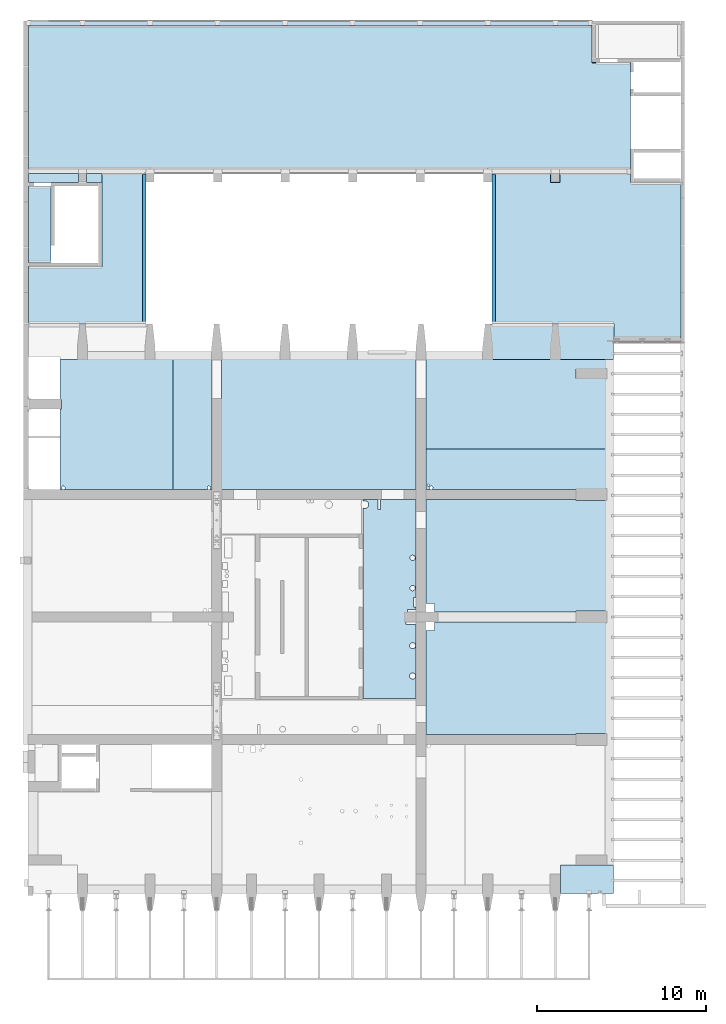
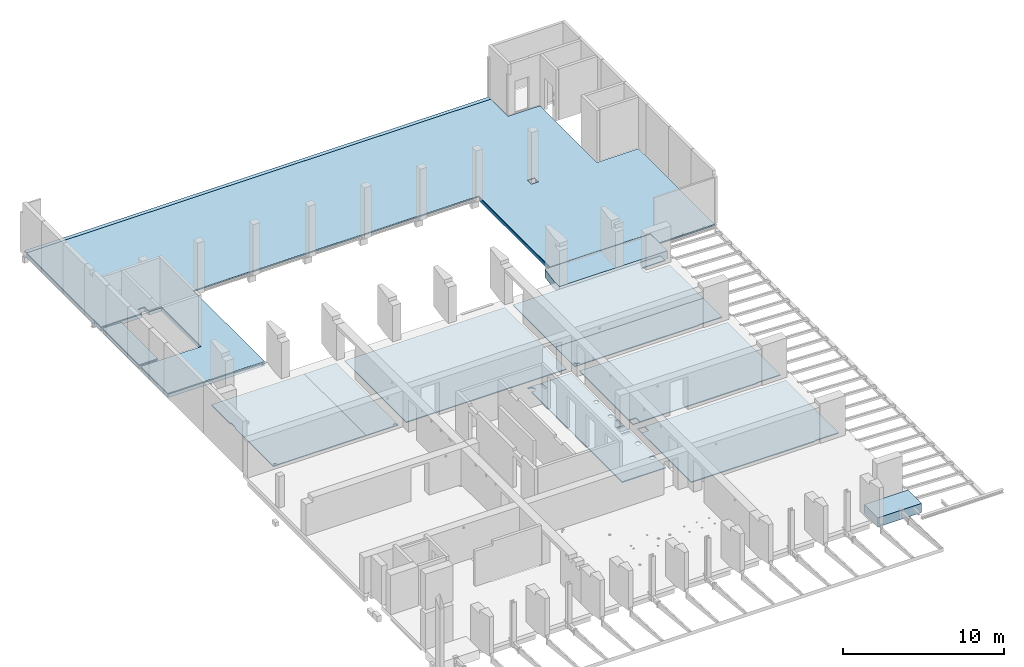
# One storey, part 19 of 27: 21 slabs, 48 openings.
"""IFC2X3 building model written with IfcOpenShell, lengths in millimetres."""

from ifc_helpers import new_model, entity, si_unit, converted_unit, derived_unit, direction, frame, frame_2d, origin, origin_2d_with_axis, place, context, subcontext, project, spatial, polyline, rectangle, circle, outline, extrude, material, layer, layer_set, layer_usage, element, save


model = new_model("IFC2X3")

# Units and contexts
model_context = context("Model", 3, precision=0.01, world=origin(), true_north=direction((6.12303176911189e-17, 1.0)))
body_context = subcontext(model_context, "Body", "Model", "MODEL_VIEW")
ifc_project = project(units=[si_unit("LENGTHUNIT", "METRE", prefix="MILLI"), si_unit("AREAUNIT", "SQUARE_METRE"), si_unit("VOLUMEUNIT", "CUBIC_METRE"), converted_unit("PLANEANGLEUNIT", "DEGREE", entity("IfcRatioMeasure", 0.0174532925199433), si_unit("PLANEANGLEUNIT", "RADIAN"), dimensions=[0, 0, 0, 0, 0, 0, 0]), si_unit("MASSUNIT", "GRAM", prefix="KILO"), derived_unit("MASSDENSITYUNIT", [(si_unit("MASSUNIT", "GRAM", prefix="KILO"), 1), (si_unit("LENGTHUNIT", "METRE"), -3)]), si_unit("TIMEUNIT", "SECOND"), si_unit("FREQUENCYUNIT", "HERTZ"), si_unit("THERMODYNAMICTEMPERATUREUNIT", "DEGREE_CELSIUS"), derived_unit("THERMALTRANSMITTANCEUNIT", [(si_unit("MASSUNIT", "GRAM", prefix="KILO"), 1), (si_unit("THERMODYNAMICTEMPERATUREUNIT", "KELVIN"), -1), (si_unit("TIMEUNIT", "SECOND"), -3)]), derived_unit("VOLUMETRICFLOWRATEUNIT", [(si_unit("LENGTHUNIT", "METRE"), 3), (si_unit("TIMEUNIT", "SECOND"), -1)]), si_unit("ELECTRICCURRENTUNIT", "AMPERE"), si_unit("ELECTRICVOLTAGEUNIT", "VOLT"), si_unit("POWERUNIT", "WATT"), si_unit("FORCEUNIT", "NEWTON", prefix="KILO"), si_unit("ILLUMINANCEUNIT", "LUX"), si_unit("LUMINOUSFLUXUNIT", "LUMEN"), si_unit("LUMINOUSINTENSITYUNIT", "CANDELA"), derived_unit("USERDEFINED", [(si_unit("MASSUNIT", "GRAM", prefix="KILO"), -1), (si_unit("LENGTHUNIT", "METRE"), -2), (si_unit("TIMEUNIT", "SECOND"), 3), (si_unit("LUMINOUSFLUXUNIT", "LUMEN"), 1)]), derived_unit("LINEARVELOCITYUNIT", [(si_unit("LENGTHUNIT", "METRE"), 1), (si_unit("TIMEUNIT", "SECOND"), -1)]), si_unit("PRESSUREUNIT", "PASCAL"), derived_unit("USERDEFINED", [(si_unit("LENGTHUNIT", "METRE"), -2), (si_unit("MASSUNIT", "GRAM", prefix="KILO"), 1), (si_unit("TIMEUNIT", "SECOND"), -2)])], contexts=[model_context])

# Site, building, storey
site_placement = place(None, origin())
site = spatial("IfcSite", under=ifc_project, at=site_placement, Name="Default", CompositionType="ELEMENT")
building_placement = place(site_placement, origin())
building = spatial("IfcBuilding", under=site, at=building_placement, Name="niet gebruiken", CompositionType="ELEMENT")
storey_placement = place(building_placement, frame((0.0, 0.0, 6000.0)))
storey = spatial("IfcBuildingStorey", under=building, at=storey_placement, Name="01 eerste verdieping", CompositionType="ELEMENT", Elevation=6000.0)

# Slabs
ifc_material_1 = material(Name="NLRS_f2_beton prefab")
ifc_layer_1 = layer(ifc_material_1, 255.0)
ifc_layer_set_1 = layer_set([ifc_layer_1], Name="Floor:NLRS_23.21_FL_kanaalplaat d=255_gen")
ifc_layer_usage_1 = layer_usage(ifc_layer_set_1, "AXIS3", "POSITIVE", 0.0)
slab_1_placement = place(storey_placement, frame((124550.0, 34027.0, -415.0)))
element("IfcSlab", 1, at=slab_1_placement, inside=storey, material=ifc_layer_usage_1, Name="Floor:NLRS_23.21_FL_kanaalplaat d=255_gen", ObjectType="Floor:NLRS_23.21_FL_kanaalplaat d=255_gen", PredefinedType="FLOOR", context=body_context, shape_type="SweptSolid", body=[
    extrude(outline(polyline([(12570.0, 479.0), (12570.0, -8376.0), (19320.0, -8376.0), (19320.0, -5026.0), (14970.0, -5026.0), (14970.0, 479.0), (12570.0, 479.0)])), frame((19320.0, 9234.0, 255.0), z_axis=(0.0, 0.0, -1.0), x_axis=(-1.0, 0.0, 0.0)), (0.0, 0.0, 1.0), 255.000000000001),
])
slab_2_placement = place(storey_placement, frame((124550.0, 34027.0, -415.0)))
element("IfcSlab", 2, at=slab_2_placement, inside=storey, material=ifc_layer_usage_1, Name="Floor:NLRS_23.21_FL_kanaalplaat d=255_gen:2", ObjectType="Floor:NLRS_23.21_FL_kanaalplaat d=255_gen", PredefinedType="FLOOR", context=body_context, shape_type="SweptSolid", body=[
    extrude(outline(polyline([(-16320.0, 779.0), (19320.0, 779.0), (19320.0, 9234.0), (-14050.0, 9234.0), (-14050.0, 7054.0), (-16320.0, 7054.0), (-16320.0, 779.0)])), frame((19320.0, 9234.0, 255.0), z_axis=(0.0, 0.0, -1.0), x_axis=(-1.0, 0.0, 0.0)), (0.0, 0.0, 1.0), 255.000000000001),
])
slab_3_placement = place(storey_placement, frame((124550.0, 34027.0, -415.0)))
element("IfcSlab", 3, at=slab_3_placement, inside=storey, material=ifc_layer_usage_1, Name="Floor:NLRS_23.21_FL_kanaalplaat d=255_gen:3", ObjectType="Floor:NLRS_23.21_FL_kanaalplaat d=255_gen", PredefinedType="FLOOR", context=body_context, shape_type="SweptSolid", body=[
    extrude(outline(polyline([(-8330.0, -8376.0), (-8330.0, 479.0), (-11610.0, 479.0), (-11610.0, -31.0), (-12150.0, -31.0), (-12150.0, 479.0), (-16320.0, 479.0), (-16320.0, -46.0), (-19320.0, -46.0), (-19320.0, -9234.0), (-15350.0, -9234.0), (-15350.0, -8376.0), (-8330.0, -8376.0)])), frame((19320.0, 9234.0, 255.0), z_axis=(0.0, 0.0, -1.0), x_axis=(-1.0, 0.0, 0.0)), (0.0, 0.0, 1.0), 255.000000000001),
])
slab_4_placement = place(storey_placement, frame((124550.0, 34027.0, -415.0)))
element("IfcSlab", 4, at=slab_4_placement, inside=storey, material=ifc_layer_usage_1, Name="Floor:NLRS_23.21_FL_kanaalplaat d=255_gen:4", ObjectType="Floor:NLRS_23.21_FL_kanaalplaat d=255_gen", PredefinedType="FLOOR", context=body_context, shape_type="SweptSolid", body=[
    extrude(rectangle(XDim=4490.00000000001, YDim=1349.99999999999, at=frame_2d((18645.0, -2511.0), x_axis=(0.0, -1.0))), frame((19320.0, 9234.0, 255.0), z_axis=(0.0, 0.0, -1.0), x_axis=(-1.0, 0.0, 0.0)), (0.0, 0.0, 1.0), 255.000000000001),
])

# Slab, opening
ifc_material_2 = material(Name="NLRS_f2_beton ihwg")
ifc_layer_2 = layer(ifc_material_2, 70.0)
ifc_layer_set_2 = layer_set([ifc_layer_2], Name="Floor:NLRS_23.21_FL_druklaag d=70_gen")
ifc_layer_usage_2 = layer_usage(ifc_layer_set_2, "AXIS3", "POSITIVE", 0.0)
slab_5_placement = place(storey_placement, frame((124550.0, 33752.0, -160.0)))
slab_5 = element("IfcSlab", 5, at=slab_5_placement, inside=storey, material=ifc_layer_usage_2, Name="Floor:NLRS_23.21_FL_druklaag d=70_gen", ObjectType="Floor:NLRS_23.21_FL_druklaag d=70_gen", PredefinedType="FLOOR", context=body_context, shape_type="SweptSolid", body=[
    extrude(outline(polyline([(12370.0, 641.50000000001), (12370.0, -8238.50000000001), (19320.0, -8238.49999999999), (19320.0, -4853.49999999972), (14970.0, -4853.49999999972), (14970.0, 106.499999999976), (15870.0, 106.499999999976), (15870.0, 626.500000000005), (16370.0, 626.500000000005), (16370.0, 106.499999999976), (19320.0, 106.499999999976), (19320.0, 9371.49999999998), (-14050.0, 9371.49999999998), (-14050.0, 7226.5), (-16320.0, 7226.49999999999), (-16320.0, 126.49999999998), (-19320.0, 126.499999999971), (-19320.0, -9371.49999999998), (-15350.0, -9371.49999999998), (-15350.0, -8238.50000000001), (-8130.0, -8238.50000000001), (-8130.0, 641.50000000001), (12370.0, 641.50000000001)])), frame((19320.0, 9371.49999999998, 70.0), z_axis=(0.0, 0.0, -1.0), x_axis=(-1.0, 0.0, 0.0)), (0.0, 0.0, 1.0), 70.0000000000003),
])
opening_1_placement = place(slab_5_placement, frame((31200.0, 9748.0, 70.0)))
element("IfcOpeningElement", 6, at=opening_1_placement, cuts=slab_5, Name="Floor:NLRS_23.21_FL_druklaag d=70_gen:2", ObjectType="Opening", context=body_context, shape_type="SweptSolid", body=[
    extrude(rectangle(XDim=499.999999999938, YDim=500.000000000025, at=origin_2d_with_axis()), frame((0.0, 0.0, 0.0), z_axis=(0.0, 0.0, -1.0), x_axis=(0.0, -1.0, 0.0)), (0.0, 0.0, 1.0), 70.0000000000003),
])

# Slabs
slab_6_placement = place(storey_placement, frame((124550.0, 33752.0, -160.0)))
element("IfcSlab", 7, at=slab_6_placement, inside=storey, material=ifc_layer_usage_2, Name="Floor:NLRS_23.21_FL_druklaag d=70_gen:2", ObjectType="Floor:NLRS_23.21_FL_druklaag d=70_gen", PredefinedType="FLOOR", context=body_context, shape_type="SweptSolid", body=[
    extrude(rectangle(XDim=4560.00000000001, YDim=1350.00000000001, at=frame_2d((18645.0, -2373.50000000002), x_axis=(0.0, -1.0))), frame((19320.0, 9371.49999999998, 70.0), z_axis=(0.0, 0.0, -1.0), x_axis=(-1.0, 0.0, 0.0)), (0.0, 0.0, 1.0), 70.0000000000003),
])
ifc_layer_3 = layer(ifc_material_2, 700.0)
ifc_layer_set_3 = layer_set([ifc_layer_3], Name="Floor:NLRS_23.21_FL_beton ihwg d=700_gen")
ifc_layer_usage_3 = layer_usage(ifc_layer_set_3, "AXIS3", "POSITIVE", 0.0)
slab_7_placement = place(storey_placement, origin())
element("IfcSlab", 8, at=slab_7_placement, inside=storey, material=ifc_layer_usage_3, Name="Floor:NLRS_23.21_FL_beton ihwg d=700_gen", ObjectType="Floor:NLRS_23.21_FL_beton ihwg d=700_gen", PredefinedType="FLOOR", context=body_context, shape_type="SweptSolid", body=[
    extrude(rectangle(XDim=1685.99999999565, YDim=3150.00000000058, at=frame_2d((0.0, -8.64019966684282e-12), x_axis=(1.0, 0.0))), frame((157625.0, 1957.0, -90.0), z_axis=(0.0, 0.0, -1.0), x_axis=(0.0, 1.0, 0.0)), (0.0, 0.0, 1.0), 700.0),
])
ifc_layer_4 = layer(ifc_material_2, 600.0)
ifc_layer_set_4 = layer_set([ifc_layer_4], Name="Floor:NLRS_23.21_FL_beton ihwg d=600_gen")
ifc_layer_usage_4 = layer_usage(ifc_layer_set_4, "AXIS3", "POSITIVE", 0.0)
slab_8_placement = place(storey_placement, origin())
element("IfcSlab", 9, at=slab_8_placement, inside=storey, material=ifc_layer_usage_4, Name="Floor:NLRS_23.21_FL_beton ihwg d=600_gen", ObjectType="Floor:NLRS_23.21_FL_beton ihwg d=600_gen", PredefinedType="FLOOR", context=body_context, shape_type="SweptSolid", body=[
    extrude(outline(polyline([(-990.0, -3130.0), (-240.0, -3130.0), (1110.0, -2980.0), (1110.0, 4620.0), (-990.0, 4620.0), (-990.0, -3130.0)])), frame((154580.0, 33740.0, -90.0), z_axis=(0.0, 0.0, -1.0), x_axis=(0.0, 1.0, 0.0)), (0.0, 0.0, 1.0), 600.0),
])

# Slab, opening
ifc_layer_5 = layer(ifc_material_1, 70.0)
ifc_layer_set_5 = layer_set([ifc_layer_5], Name="Floor:NLRS_23.21_FL_breedplaat d=70_gen")
ifc_layer_usage_5 = layer_usage(ifc_layer_set_5, "AXIS3", "POSITIVE", 0.0)
slab_9_placement = place(storey_placement, frame((133100.0, 25040.0, -360.0)))
slab_9 = element("IfcSlab", 10, at=slab_9_placement, inside=storey, material=ifc_layer_usage_5, Name="Floor:NLRS_23.21_FL_breedplaat d=70_gen", ObjectType="Floor:NLRS_23.21_FL_breedplaat d=70_gen", PredefinedType="FLOOR", context=body_context, shape_type="SweptSolid", body=[
    extrude(rectangle(XDim=7700.00000000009, YDim=2309.99999999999, at=frame_2d((11650.0, 0.0), x_axis=(0.0, 1.0))), frame((12805.0, 3850.0, 70.0), z_axis=(0.0, 0.0, -1.0), x_axis=(-1.0, 0.0, 0.0)), (0.0, 0.0, 1.0), 70.0000000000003),
])
placement_1 = place(slab_9_placement, origin())
element("IfcOpeningElement", 11, at=placement_1, cuts=slab_9, ObjectType="Opening", context=body_context, shape_type="SweptSolid", body=[
    extrude(circle(Radius=100.0, at=origin_2d_with_axis()), frame((2140.0, 110.0, 0.0), z_axis=(0.0, 0.0, 1.0), x_axis=(0.0, -1.0, 0.0)), (0.0, 0.0, 1.0), 270.0),
])

slab_10_placement = place(storey_placement, frame((133100.0, 25040.0, -360.0)))
slab_10 = element("IfcSlab", 12, at=slab_10_placement, inside=storey, material=ifc_layer_usage_5, Name="Floor:NLRS_23.21_FL_breedplaat d=70_gen:2", ObjectType="Floor:NLRS_23.21_FL_breedplaat d=70_gen", PredefinedType="FLOOR", context=body_context, shape_type="SweptSolid", body=[
    extrude(outline(polyline([(-2185.0, 3850.0), (-12805.0, 3850.0), (-12805.0, 3300.0), (-11085.0, 3300.0), (-11085.0, 2720.0), (-12805.0, 2720.0), (-12805.0, -1450.0), (-2185.0, -1450.0), (-2185.0, 3850.0)])), frame((12805.0, 3850.0, 70.0), z_axis=(0.0, 0.0, -1.0), x_axis=(-1.0, 0.0, 0.0)), (0.0, 0.0, 1.0), 70.0000000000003),
])
element("IfcOpeningElement", 13, at=placement_1, cuts=slab_10, ObjectType="Opening", context=body_context, shape_type="SweptSolid", body=[
    extrude(circle(Radius=100.0, at=origin_2d_with_axis()), frame((2140.0, 110.0, 0.0), z_axis=(0.0, 0.0, 1.0), x_axis=(0.0, -1.0, 0.0)), (0.0, 0.0, 1.0), 270.0),
])

slab_11_placement = place(storey_placement, frame((133100.0, 25040.0, -360.0)))
slab_11 = element("IfcSlab", 14, at=slab_11_placement, inside=storey, material=ifc_layer_usage_5, Name="Floor:NLRS_23.21_FL_breedplaat d=70_gen:3", ObjectType="Floor:NLRS_23.21_FL_breedplaat d=70_gen", PredefinedType="FLOOR", context=body_context, shape_type="SweptSolid", body=[
    extrude(rectangle(XDim=11520.0000000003, YDim=7700.00000000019, at=frame_2d((4155.0, 0.0), x_axis=(1.0, 0.0))), frame((12805.0, 3850.0, 70.0), z_axis=(0.0, 0.0, -1.0), x_axis=(-1.0, 0.0, 0.0)), (0.0, 0.0, 1.0), 70.0000000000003),
])
element("IfcOpeningElement", 15, at=placement_1, cuts=slab_11, ObjectType="Opening", context=body_context, shape_type="SweptSolid", body=[
    extrude(circle(Radius=100.0, at=origin_2d_with_axis()), frame((2140.0, 110.0, 0.0), z_axis=(0.0, 0.0, 1.0), x_axis=(0.0, -1.0, 0.0)), (0.0, 0.0, 1.0), 270.0),
])

# Slab, openings
ifc_layer_usage_6 = layer_usage(ifc_layer_set_5, "AXIS3", "POSITIVE", 0.0)
slab_12_placement = place(storey_placement, frame((148090.0, 1604.0, -360.0)))
slab_12 = element("IfcSlab", 16, at=slab_12_placement, inside=storey, material=ifc_layer_usage_6, Name="Floor:NLRS_23.21_FL_breedplaat d=70_gen", ObjectType="Floor:NLRS_23.21_FL_breedplaat d=70_gen", PredefinedType="FLOOR", context=body_context, shape_type="SweptSolid", body=[
    extrude(outline(polyline([(5310.0, 12918.0), (-5310.0, 12918.0), (-5310.0, 10568.0), (-3590.0, 10568.0), (-3590.0, 10518.0), (5310.0, 10518.0), (5310.0, 12918.0)])), frame((5310.0, 12918.0, 70.0), z_axis=(0.0, 0.0, -1.0), x_axis=(-1.0, 0.0, 0.0)), (0.0, 0.0, 1.0), 70.0000000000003),
])
placement_2 = place(slab_12_placement, origin())
element("IfcOpeningElement", 17, at=placement_2, cuts=slab_12, ObjectType="Opening", context=body_context, shape_type="SweptSolid", body=[
    extrude(circle(Radius=62.5, at=origin_2d_with_axis()), frame((160.0, 23696.0, 0.0), z_axis=(0.0, 0.0, 1.0), x_axis=(0.0, -1.0, 0.0)), (0.0, 0.0, 1.0), 270.0),
])
placement_3 = place(slab_12_placement, origin())
element("IfcOpeningElement", 18, at=placement_3, cuts=slab_12, ObjectType="Opening", context=body_context, shape_type="SweptSolid", body=[
    extrude(rectangle(XDim=500.000000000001, YDim=500.000000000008, at=origin_2d_with_axis()), frame((260.0, 16446.0, 0.0), z_axis=(0.0, 0.0, 1.0), x_axis=(0.0, 1.0, 0.0)), (0.0, 0.0, 1.0), 270.0),
])
placement_4 = place(slab_12_placement, origin())
element("IfcOpeningElement", 19, at=placement_4, cuts=slab_12, ObjectType="Opening", context=body_context, shape_type="SweptSolid", body=[
    extrude(rectangle(XDim=500.000000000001, YDim=500.000000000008, at=origin_2d_with_axis()), frame((260.0, 15346.0, 0.0), z_axis=(0.0, 0.0, 1.0), x_axis=(0.0, 1.0, 0.0)), (0.0, 0.0, 1.0), 270.0),
])
placement_5 = place(slab_12_placement, origin())
element("IfcOpeningElement", 20, at=placement_5, cuts=slab_12, ObjectType="Opening", context=body_context, shape_type="SweptSolid", body=[
    extrude(circle(Radius=100.0, at=origin_2d_with_axis()), frame((310.0, 23546.0, 0.0), z_axis=(0.0, 0.0, 1.0), x_axis=(0.0, -1.0, 0.0)), (0.0, 0.0, 1.0), 270.0),
])

slab_13_placement = place(storey_placement, frame((148090.0, 1604.0, -360.0)))
slab_13 = element("IfcSlab", 21, at=slab_13_placement, inside=storey, material=ifc_layer_usage_6, Name="Floor:NLRS_23.21_FL_breedplaat d=70_gen:3", ObjectType="Floor:NLRS_23.21_FL_breedplaat d=70_gen", PredefinedType="FLOOR", context=body_context, shape_type="SweptSolid", body=[
    extrude(outline(polyline([(-3590.0, -3982.0), (5310.0, -3982.0), (5310.0, 2688.0), (-3590.0, 2688.0), (-3590.0, 2638.0), (-5310.0, 2638.0), (-5310.0, -3932.0), (-3590.0, -3932.0), (-3590.0, -3982.0)])), frame((5310.0, 12918.0, 70.0), z_axis=(0.0, 0.0, -1.0), x_axis=(-1.0, 0.0, 0.0)), (0.0, 0.0, 1.0), 70.0000000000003),
])
element("IfcOpeningElement", 22, at=placement_2, cuts=slab_13, ObjectType="Opening", context=body_context, shape_type="SweptSolid", body=[
    extrude(circle(Radius=62.5, at=origin_2d_with_axis()), frame((160.0, 23696.0, 0.0), z_axis=(0.0, 0.0, 1.0), x_axis=(0.0, -1.0, 0.0)), (0.0, 0.0, 1.0), 270.0),
])
element("IfcOpeningElement", 23, at=placement_3, cuts=slab_13, ObjectType="Opening", context=body_context, shape_type="SweptSolid", body=[
    extrude(rectangle(XDim=500.000000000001, YDim=500.000000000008, at=origin_2d_with_axis()), frame((260.0, 16446.0, 0.0), z_axis=(0.0, 0.0, 1.0), x_axis=(0.0, 1.0, 0.0)), (0.0, 0.0, 1.0), 270.0),
])
element("IfcOpeningElement", 24, at=placement_4, cuts=slab_13, ObjectType="Opening", context=body_context, shape_type="SweptSolid", body=[
    extrude(rectangle(XDim=500.000000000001, YDim=500.000000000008, at=origin_2d_with_axis()), frame((260.0, 15346.0, 0.0), z_axis=(0.0, 0.0, 1.0), x_axis=(0.0, 1.0, 0.0)), (0.0, 0.0, 1.0), 270.0),
])
element("IfcOpeningElement", 25, at=placement_5, cuts=slab_13, ObjectType="Opening", context=body_context, shape_type="SweptSolid", body=[
    extrude(circle(Radius=100.0, at=origin_2d_with_axis()), frame((310.0, 23546.0, 0.0), z_axis=(0.0, 0.0, 1.0), x_axis=(0.0, -1.0, 0.0)), (0.0, 0.0, 1.0), 270.0),
])

slab_14_placement = place(storey_placement, frame((148090.0, 1604.0, -360.0)))
slab_14 = element("IfcSlab", 26, at=slab_14_placement, inside=storey, material=ifc_layer_usage_6, Name="Floor:NLRS_23.21_FL_breedplaat d=70_gen:4", ObjectType="Floor:NLRS_23.21_FL_breedplaat d=70_gen", PredefinedType="FLOOR", context=body_context, shape_type="SweptSolid", body=[
    extrude(outline(polyline([(-3590.0, 3268.0), (5310.0, 3268.0), (5310.0, 9938.0), (-3590.0, 9938.0), (-3590.0, 9888.0), (-5310.0, 9888.0), (-5310.0, 3318.0), (-3590.0, 3318.0), (-3590.0, 3268.0)])), frame((5310.0, 12918.0, 70.0), z_axis=(0.0, 0.0, -1.0), x_axis=(-1.0, 0.0, 0.0)), (0.0, 0.0, 1.0), 70.0000000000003),
])
element("IfcOpeningElement", 27, at=placement_2, cuts=slab_14, ObjectType="Opening", context=body_context, shape_type="SweptSolid", body=[
    extrude(circle(Radius=62.5, at=origin_2d_with_axis()), frame((160.0, 23696.0, 0.0), z_axis=(0.0, 0.0, 1.0), x_axis=(0.0, -1.0, 0.0)), (0.0, 0.0, 1.0), 270.0),
])
element("IfcOpeningElement", 28, at=placement_3, cuts=slab_14, ObjectType="Opening", context=body_context, shape_type="SweptSolid", body=[
    extrude(rectangle(XDim=500.000000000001, YDim=500.000000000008, at=origin_2d_with_axis()), frame((260.0, 16446.0, 0.0), z_axis=(0.0, 0.0, 1.0), x_axis=(0.0, 1.0, 0.0)), (0.0, 0.0, 1.0), 270.0),
])
element("IfcOpeningElement", 29, at=placement_4, cuts=slab_14, ObjectType="Opening", context=body_context, shape_type="SweptSolid", body=[
    extrude(rectangle(XDim=500.000000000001, YDim=500.000000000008, at=origin_2d_with_axis()), frame((260.0, 15346.0, 0.0), z_axis=(0.0, 0.0, 1.0), x_axis=(0.0, 1.0, 0.0)), (0.0, 0.0, 1.0), 270.0),
])
element("IfcOpeningElement", 30, at=placement_5, cuts=slab_14, ObjectType="Opening", context=body_context, shape_type="SweptSolid", body=[
    extrude(circle(Radius=100.0, at=origin_2d_with_axis()), frame((310.0, 23546.0, 0.0), z_axis=(0.0, 0.0, 1.0), x_axis=(0.0, -1.0, 0.0)), (0.0, 0.0, 1.0), 270.0),
])

ifc_layer_usage_7 = layer_usage(ifc_layer_set_5, "AXIS3", "POSITIVE", 0.0)
slab_15_placement = place(storey_placement, frame((124740.0, 12266.0, -360.0)))
slab_15 = element("IfcSlab", 31, at=slab_15_placement, inside=storey, material=ifc_layer_usage_7, Name="Floor:NLRS_23.21_FL_breedplaat d=70_gen", ObjectType="Floor:NLRS_23.21_FL_breedplaat d=70_gen", PredefinedType="FLOOR", context=body_context, shape_type="SweptSolid", body=[
    extrude(outline(polyline([(3645.0, 7887.0), (3645.0, 10237.0), (-3025.0, 10237.0), (-3025.0, 2537.0), (3645.0, 2537.0), (3645.0, 7307.0), (3565.0, 7307.0), (3565.0, 7887.0), (3645.0, 7887.0)])), frame((5335.0, 10237.0, 70.0), z_axis=(0.0, 0.0, -1.0), x_axis=(-1.0, 0.0, 0.0)), (0.0, 0.0, 1.0), 70.0000000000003),
])
opening_17_placement = place(slab_15_placement, origin())
element("IfcOpeningElement", 32, at=opening_17_placement, cuts=slab_15, ObjectType="Opening", context=body_context, shape_type="SweptSolid", body=[
    extrude(circle(Radius=100.0, at=origin_2d_with_axis()), frame((10560.0, 4834.0, 0.0), z_axis=(0.0, 0.0, 1.0), x_axis=(0.0, -1.0, 0.0)), (0.0, 0.0, 1.0), 270.0),
])
opening_18_placement = place(slab_15_placement, origin())
element("IfcOpeningElement", 33, at=opening_18_placement, cuts=slab_15, ObjectType="Opening", context=body_context, shape_type="SweptSolid", body=[
    extrude(circle(Radius=100.0, at=origin_2d_with_axis()), frame((10560.0, 5634.0, 0.0), z_axis=(0.0, 0.0, 1.0), x_axis=(0.0, -1.0, 0.0)), (0.0, 0.0, 1.0), 270.0),
])
opening_19_placement = place(slab_15_placement, origin())
element("IfcOpeningElement", 34, at=opening_19_placement, cuts=slab_15, ObjectType="Opening", context=body_context, shape_type="SweptSolid", body=[
    extrude(circle(Radius=100.0, at=origin_2d_with_axis()), frame((10260.0, 5634.0, 0.0), z_axis=(0.0, 0.0, 1.0), x_axis=(0.0, -1.0, 0.0)), (0.0, 0.0, 1.0), 270.0),
])
opening_20_placement = place(slab_15_placement, origin())
element("IfcOpeningElement", 35, at=opening_20_placement, cuts=slab_15, ObjectType="Opening", context=body_context, shape_type="SweptSolid", body=[
    extrude(circle(Radius=100.0, at=origin_2d_with_axis()), frame((1880.0, 12884.0, 0.0), z_axis=(0.0, 0.0, 1.0), x_axis=(-1.0, 0.0, 0.0)), (0.0, 0.0, 1.0), 270.0),
])

ifc_layer_usage_8 = layer_usage(ifc_layer_set_5, "AXIS3", "POSITIVE", 0.0)
slab_16_placement = place(storey_placement, frame((135990.0, 10540.0, -330.0)))
slab_16 = element("IfcSlab", 36, at=slab_16_placement, inside=storey, material=ifc_layer_usage_8, Name="Floor:NLRS_23.21_FL_breedplaat d=70_gen:3", ObjectType="Floor:NLRS_23.21_FL_breedplaat d=70_gen", PredefinedType="FLOOR", context=body_context, shape_type="SweptSolid", body=[
    extrude(rectangle(XDim=11800.0, YDim=3160.00000000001, at=frame_2d((-4180.0, 1060.0), x_axis=(0.0, -1.0))), frame((5760.0, 6960.0, 70.0), z_axis=(0.0, 0.0, -1.0), x_axis=(-1.0, 0.0, 0.0)), (0.0, 0.0, 1.0), 70.0000000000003),
])
placement_6 = place(storey_placement, frame((135990.0, 10540.0, -330.0)))
opening_21_placement = place(placement_6, origin())
element("IfcOpeningElement", 37, at=opening_21_placement, cuts=slab_16, ObjectType="Opening", context=body_context, shape_type="SweptSolid", body=[
    extrude(circle(Radius=225.0, at=origin_2d_with_axis()), frame((8485.0, 13610.0, 0.0), z_axis=(0.0, 0.0, 1.0), x_axis=(-1.0, 0.0, 0.0)), (0.0, 0.0, 1.0), 240.0),
])
opening_22_placement = place(placement_6, origin())
element("IfcOpeningElement", 38, at=opening_22_placement, cuts=slab_16, ObjectType="Opening", context=body_context, shape_type="SweptSolid", body=[
    extrude(circle(Radius=100.0, at=origin_2d_with_axis()), frame((5135.0, 13810.0, 0.0), z_axis=(0.0, 0.0, 1.0), x_axis=(-1.0, 0.0, 0.0)), (0.0, 0.0, 1.0), 240.0),
])
opening_23_placement = place(placement_6, origin())
element("IfcOpeningElement", 39, at=opening_23_placement, cuts=slab_16, ObjectType="Opening", context=body_context, shape_type="SweptSolid", body=[
    extrude(circle(Radius=100.0, at=origin_2d_with_axis()), frame((5345.0, 13810.0, 0.0), z_axis=(0.0, 0.0, 1.0), x_axis=(-1.0, 0.0, 0.0)), (0.0, 0.0, 1.0), 240.0),
])
opening_24_placement = place(placement_6, origin())
element("IfcOpeningElement", 40, at=opening_24_placement, cuts=slab_16, ObjectType="Opening", context=body_context, shape_type="SweptSolid", body=[
    extrude(circle(Radius=100.0, at=origin_2d_with_axis()), frame((310.0, 4365.0, 0.0), z_axis=(0.0, 0.0, 1.0), x_axis=(0.0, 1.0, 0.0)), (0.0, 0.0, 1.0), 240.0),
])
opening_25_placement = place(placement_6, origin())
element("IfcOpeningElement", 41, at=opening_25_placement, cuts=slab_16, ObjectType="Opening", context=body_context, shape_type="SweptSolid", body=[
    extrude(rectangle(XDim=150.000000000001, YDim=590.000000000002, at=origin_2d_with_axis()), frame((2210.0, 305.0, 0.0)), (0.0, 0.0, 1.0), 240.0),
])
opening_26_placement = place(placement_6, origin())
element("IfcOpeningElement", 42, at=opening_26_placement, cuts=slab_16, ObjectType="Opening", context=body_context, shape_type="SweptSolid", body=[
    extrude(circle(Radius=177.5, at=origin_2d_with_axis()), frame((11310.0, 3461.0, 0.0), z_axis=(0.0, 0.0, 1.0), x_axis=(0.0, 1.0, 0.0)), (0.0, 0.0, 1.0), 240.0),
])
opening_27_placement = place(placement_6, origin())
element("IfcOpeningElement", 43, at=opening_27_placement, cuts=slab_16, ObjectType="Opening", context=body_context, shape_type="SweptSolid", body=[
    extrude(rectangle(XDim=1000.0, YDim=400.000000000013, at=origin_2d_with_axis()), frame((210.0, 6160.0, 0.0), z_axis=(0.0, 0.0, 1.0), x_axis=(0.0, -1.0, 0.0)), (0.0, 0.0, 1.0), 240.0),
])
opening_28_placement = place(placement_6, origin())
element("IfcOpeningElement", 44, at=opening_28_placement, cuts=slab_16, ObjectType="Opening", context=body_context, shape_type="SweptSolid", body=[
    extrude(rectangle(XDim=400.000000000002, YDim=300.000000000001, at=origin_2d_with_axis()), frame((210.0, 4730.0, 0.0), z_axis=(0.0, 0.0, 1.0), x_axis=(0.0, -1.0, 0.0)), (0.0, 0.0, 1.0), 240.0),
])
opening_29_placement = place(placement_6, origin())
element("IfcOpeningElement", 45, at=opening_29_placement, cuts=slab_16, ObjectType="Opening", context=body_context, shape_type="SweptSolid", body=[
    extrude(rectangle(XDim=1190.0, YDim=400.000000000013, at=origin_2d_with_axis()), frame((210.0, 7855.0, 0.0), z_axis=(0.0, 0.0, 1.0), x_axis=(0.0, -1.0, 0.0)), (0.0, 0.0, 1.0), 240.0),
])
opening_30_placement = place(placement_6, origin())
element("IfcOpeningElement", 46, at=opening_30_placement, cuts=slab_16, ObjectType="Opening", context=body_context, shape_type="SweptSolid", body=[
    extrude(rectangle(XDim=400.000000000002, YDim=300.000000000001, at=origin_2d_with_axis()), frame((210.0, 8910.0, 0.0), z_axis=(0.0, 0.0, 1.0), x_axis=(0.0, -1.0, 0.0)), (0.0, 0.0, 1.0), 240.0),
])
opening_31_placement = place(placement_6, origin())
element("IfcOpeningElement", 47, at=opening_31_placement, cuts=slab_16, ObjectType="Opening", context=body_context, shape_type="SweptSolid", body=[
    extrude(rectangle(XDim=1200.0, YDim=450.000000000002, at=origin_2d_with_axis()), frame((385.0, 11040.0, 0.0), z_axis=(0.0, 0.0, 1.0), x_axis=(0.0, -1.0, 0.0)), (0.0, 0.0, 1.0), 240.0),
])
opening_32_placement = place(placement_6, origin())
element("IfcOpeningElement", 48, at=opening_32_placement, cuts=slab_16, ObjectType="Opening", context=body_context, shape_type="SweptSolid", body=[
    extrude(rectangle(XDim=600.000000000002, YDim=155.000000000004, at=origin_2d_with_axis()), frame((11210.0, 6582.49999999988, 0.0)), (0.0, 0.0, 1.0), 240.0),
])
opening_33_placement = place(placement_6, origin())
element("IfcOpeningElement", 49, at=opening_33_placement, cuts=slab_16, ObjectType="Opening", context=body_context, shape_type="SweptSolid", body=[
    extrude(rectangle(XDim=489.999999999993, YDim=150.000000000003, at=origin_2d_with_axis()), frame((11265.0, 7335.0, 0.0)), (0.0, 0.0, 1.0), 240.0),
])
opening_34_placement = place(placement_6, origin())
element("IfcOpeningElement", 50, at=opening_34_placement, cuts=slab_16, ObjectType="Opening", context=body_context, shape_type="SweptSolid", body=[
    extrude(rectangle(XDim=150.000000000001, YDim=590.000000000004, at=origin_2d_with_axis()), frame((9325.0, 13615.0, 0.0)), (0.0, 0.0, 1.0), 240.0),
])
opening_35_placement = place(placement_6, origin())
element("IfcOpeningElement", 51, at=opening_35_placement, cuts=slab_16, ObjectType="Opening", context=body_context, shape_type="SweptSolid", body=[
    extrude(rectangle(XDim=150.000000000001, YDim=590.000000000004, at=origin_2d_with_axis()), frame((2205.0, 13615.0, 0.0)), (0.0, 0.0, 1.0), 240.0),
])
opening_36_placement = place(placement_6, origin())
element("IfcOpeningElement", 52, at=opening_36_placement, cuts=slab_16, ObjectType="Opening", context=body_context, shape_type="SweptSolid", body=[
    extrude(circle(Radius=157.5, at=origin_2d_with_axis()), frame((11310.0, 10460.0, 0.0), z_axis=(0.0, 0.0, 1.0), x_axis=(0.0, 1.0, 0.0)), (0.0, 0.0, 1.0), 240.0),
])
opening_37_placement = place(placement_6, origin())
element("IfcOpeningElement", 53, at=opening_37_placement, cuts=slab_16, ObjectType="Opening", context=body_context, shape_type="SweptSolid", body=[
    extrude(circle(Radius=157.5, at=origin_2d_with_axis()), frame((11310.0, 8665.0, 0.0), z_axis=(0.0, 0.0, 1.0), x_axis=(0.0, 1.0, 0.0)), (0.0, 0.0, 1.0), 240.0),
])
opening_38_placement = place(placement_6, origin())
element("IfcOpeningElement", 54, at=opening_38_placement, cuts=slab_16, ObjectType="Opening", context=body_context, shape_type="SweptSolid", body=[
    extrude(rectangle(XDim=550.000000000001, YDim=140.000000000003, at=origin_2d_with_axis()), frame((11440.0, 7830.0, 0.0), z_axis=(0.0, 0.0, 1.0), x_axis=(0.0, -1.0, 0.0)), (0.0, 0.0, 1.0), 240.0),
])
opening_39_placement = place(placement_6, origin())
element("IfcOpeningElement", 55, at=opening_39_placement, cuts=slab_16, ObjectType="Opening", context=body_context, shape_type="SweptSolid", body=[
    extrude(circle(Radius=177.5, at=origin_2d_with_axis()), frame((11310.0, 5255.0, 0.0), z_axis=(0.0, 0.0, 1.0), x_axis=(0.0, 1.0, 0.0)), (0.0, 0.0, 1.0), 240.0),
])
opening_40_placement = place(placement_6, origin())
element("IfcOpeningElement", 56, at=opening_40_placement, cuts=slab_16, ObjectType="Opening", context=body_context, shape_type="SweptSolid", body=[
    extrude(rectangle(XDim=150.000000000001, YDim=590.000000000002, at=origin_2d_with_axis()), frame((9335.0, 305.0, 0.0)), (0.0, 0.0, 1.0), 240.0),
])
opening_41_placement = place(placement_6, origin())
element("IfcOpeningElement", 57, at=opening_41_placement, cuts=slab_16, ObjectType="Opening", context=body_context, shape_type="SweptSolid", body=[
    extrude(circle(Radius=177.5, at=origin_2d_with_axis()), frame((7910.0, 310.0, 0.0), z_axis=(0.0, 0.0, 1.0), x_axis=(-1.0, 0.0, 0.0)), (0.0, 0.0, 1.0), 240.0),
])
opening_42_placement = place(placement_6, origin())
element("IfcOpeningElement", 58, at=opening_42_placement, cuts=slab_16, ObjectType="Opening", context=body_context, shape_type="SweptSolid", body=[
    extrude(circle(Radius=177.5, at=origin_2d_with_axis()), frame((3610.0, 310.0, 0.0), z_axis=(0.0, 0.0, 1.0), x_axis=(-1.0, 0.0, 0.0)), (0.0, 0.0, 1.0), 240.0),
])
opening_43_placement = place(placement_6, origin())
element("IfcOpeningElement", 59, at=opening_43_placement, cuts=slab_16, ObjectType="Opening", context=body_context, shape_type="SweptSolid", body=[
    extrude(rectangle(XDim=1129.0, YDim=450.000000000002, at=origin_2d_with_axis()), frame((385.0, 2884.49999999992, 0.0), z_axis=(0.0, 0.0, 1.0), x_axis=(0.0, -1.0, 0.0)), (0.0, 0.0, 1.0), 240.0),
])
opening_44_placement = place(placement_6, origin())
element("IfcOpeningElement", 60, at=opening_44_placement, cuts=slab_16, ObjectType="Opening", context=body_context, shape_type="SweptSolid", body=[
    extrude(rectangle(XDim=400.000000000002, YDim=300.000000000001, at=origin_2d_with_axis()), frame((210.0, 3943.0, 0.0), z_axis=(0.0, 0.0, 1.0), x_axis=(0.0, -1.0, 0.0)), (0.0, 0.0, 1.0), 240.0),
])
opening_45_placement = place(placement_6, origin())
element("IfcOpeningElement", 61, at=opening_45_placement, cuts=slab_16, ObjectType="Opening", context=body_context, shape_type="SweptSolid", body=[
    extrude(circle(Radius=225.0, at=origin_2d_with_axis()), frame((6345.0, 13610.0, 0.0), z_axis=(0.0, 0.0, 1.0), x_axis=(-1.0, 0.0, 0.0)), (0.0, 0.0, 1.0), 240.0),
])
opening_46_placement = place(placement_6, origin())
element("IfcOpeningElement", 62, at=opening_46_placement, cuts=slab_16, ObjectType="Opening", context=body_context, shape_type="SweptSolid", body=[
    extrude(circle(Radius=100.0, at=origin_2d_with_axis()), frame((310.0, 9380.0, 0.0), z_axis=(0.0, 0.0, 1.0), x_axis=(0.0, 1.0, 0.0)), (0.0, 0.0, 1.0), 240.0),
])
opening_47_placement = place(placement_6, origin())
element("IfcOpeningElement", 63, at=opening_47_placement, cuts=slab_16, ObjectType="Opening", context=body_context, shape_type="SweptSolid", body=[
    extrude(circle(Radius=100.0, at=origin_2d_with_axis()), frame((310.0, 9655.0, 0.0), z_axis=(0.0, 0.0, 1.0), x_axis=(0.0, 1.0, 0.0)), (0.0, 0.0, 1.0), 240.0),
])
opening_48_placement = place(placement_6, origin())
element("IfcOpeningElement", 64, at=opening_48_placement, cuts=slab_16, ObjectType="Opening", context=body_context, shape_type="SweptSolid", body=[
    extrude(rectangle(XDim=400.0, YDim=300.000000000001, at=origin_2d_with_axis()), frame((210.0, 9980.0, 0.0), z_axis=(0.0, 0.0, 1.0), x_axis=(0.0, -1.0, 0.0)), (0.0, 0.0, 1.0), 240.0),
])

# Slabs
ifc_layer_6 = layer(ifc_material_2, 80.0)
ifc_layer_set_6 = layer_set([ifc_layer_6], Name="Floor:NLRS_23.21_FL_druklaag d=80_gen")
ifc_layer_usage_9 = layer_usage(ifc_layer_set_6, "AXIS3", "POSITIVE", 0.0)
slab_17_placement = place(storey_placement, frame((124550.0, 43250.0, -170.0)))
element("IfcSlab", 65, at=slab_17_placement, inside=storey, material=ifc_layer_usage_9, Name="Floor:NLRS_23.21_FL_druklaag d=80_gen", ObjectType="Floor:NLRS_23.21_FL_druklaag d=80_gen", PredefinedType="FLOOR", context=body_context, shape_type="SweptSolid", body=[
    extrude(rectangle(XDim=33370.0, YDim=275.00000000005, at=frame_2d((0.0, 4622.49999999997), x_axis=(-1.0, 0.0))), frame((16685.0, 4760.0, 80.0), z_axis=(0.0, 0.0, -1.0), x_axis=(-1.0, 0.0, 0.0)), (0.0, 0.0, 1.0), 80.0000000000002),
])
ifc_layer_7 = layer(ifc_material_2, 255.0)
ifc_layer_set_7 = layer_set([ifc_layer_7], Name="Floor:NLRS_13.22_FL_beton ihwg d=255_gen")
ifc_layer_usage_10 = layer_usage(ifc_layer_set_7, "AXIS3", "POSITIVE", 0.0)
slab_18_placement = place(storey_placement, frame((131300.0, 34885.0, -415.0)))
element("IfcSlab", 66, at=slab_18_placement, inside=storey, material=ifc_layer_usage_10, Name="Floor:NLRS_13.22_FL_beton ihwg d=255_gen", ObjectType="Floor:NLRS_13.22_FL_beton ihwg d=255_gen", PredefinedType="BASESLAB", context=body_context, shape_type="SweptSolid", body=[
    extrude(rectangle(XDim=200.000000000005, YDim=8854.99999999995, at=frame_2d((-10350.0, 0.0), x_axis=(1.0, 0.0))), frame((10450.0, 4427.49999999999, 255.0), z_axis=(0.0, 0.0, -1.0), x_axis=(-1.0, 0.0, 0.0)), (0.0, 0.0, 1.0), 255.000000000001),
])
slab_19_placement = place(storey_placement, frame((131300.0, 34885.0, -415.0)))
element("IfcSlab", 67, at=slab_19_placement, inside=storey, material=ifc_layer_usage_10, Name="Floor:NLRS_13.22_FL_beton ihwg d=255_gen:2", ObjectType="Floor:NLRS_13.22_FL_beton ihwg d=255_gen", PredefinedType="BASESLAB", context=body_context, shape_type="SweptSolid", body=[
    extrude(rectangle(XDim=8854.99999999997, YDim=200.000000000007, at=frame_2d((10350.0, 0.0), x_axis=(0.0, -1.0))), frame((10450.0, 4427.49999999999, 255.0), z_axis=(0.0, 0.0, -1.0), x_axis=(-1.0, 0.0, 0.0)), (0.0, 0.0, 1.0), 255.000000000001),
])
ifc_layer_8 = layer(ifc_material_2, 255.0)
ifc_layer_set_8 = layer_set([ifc_layer_8], Name="Floor:NLRS_23.21_FL_beton ihwg d=255_gen")
ifc_layer_usage_11 = layer_usage(ifc_layer_set_8, "AXIS3", "POSITIVE", 0.0)
slab_20_placement = place(storey_placement, frame((124550.0, 43230.0, -415.0)))
element("IfcSlab", 68, at=slab_20_placement, inside=storey, material=ifc_layer_usage_11, Name="Floor:NLRS_23.21_FL_beton ihwg d=255_gen", ObjectType="Floor:NLRS_23.21_FL_beton ihwg d=255_gen", PredefinedType="FLOOR", context=body_context, shape_type="SweptSolid", body=[
    extrude(rectangle(XDim=899.999999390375, YDim=530.000000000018, at=frame_2d((-1725.0, 0.0), x_axis=(-1.0, 0.0))), frame((2175.0, 265.0, 255.0), z_axis=(0.0, 0.0, -1.0), x_axis=(-1.0, 0.0, 0.0)), (0.0, 0.0, 1.0), 255.000000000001),
])
slab_21_placement = place(storey_placement, frame((124550.0, 43230.0, -415.0)))
element("IfcSlab", 69, at=slab_21_placement, inside=storey, material=ifc_layer_usage_11, Name="Floor:NLRS_23.21_FL_beton ihwg d=255_gen:2", ObjectType="Floor:NLRS_23.21_FL_beton ihwg d=255_gen", PredefinedType="FLOOR", context=body_context, shape_type="SweptSolid", body=[
    extrude(rectangle(XDim=2950.00000000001, YDim=530.00000000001, at=frame_2d((700.0, 0.0), x_axis=(-1.0, 0.0))), frame((2175.0, 265.0, 255.0), z_axis=(0.0, 0.0, -1.0), x_axis=(-1.0, 0.0, 0.0)), (0.0, 0.0, 1.0), 255.000000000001),
])

save(model, "model.ifc")
